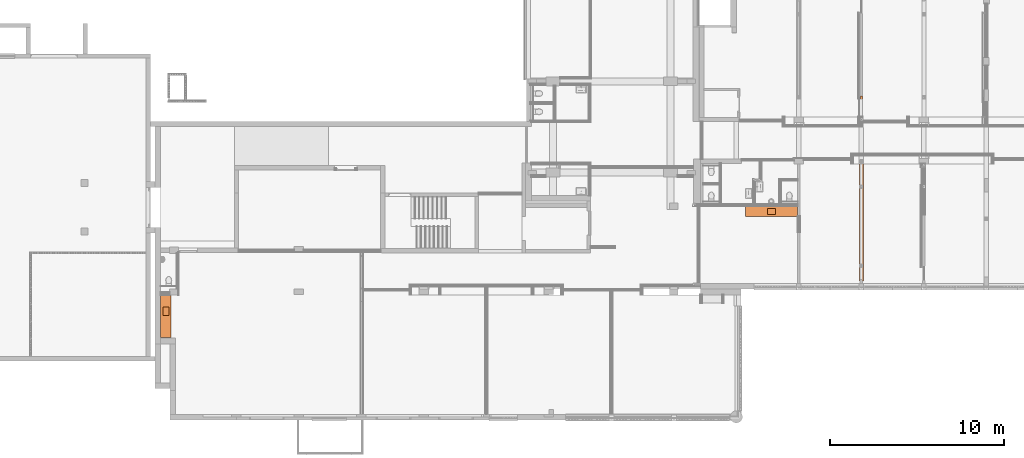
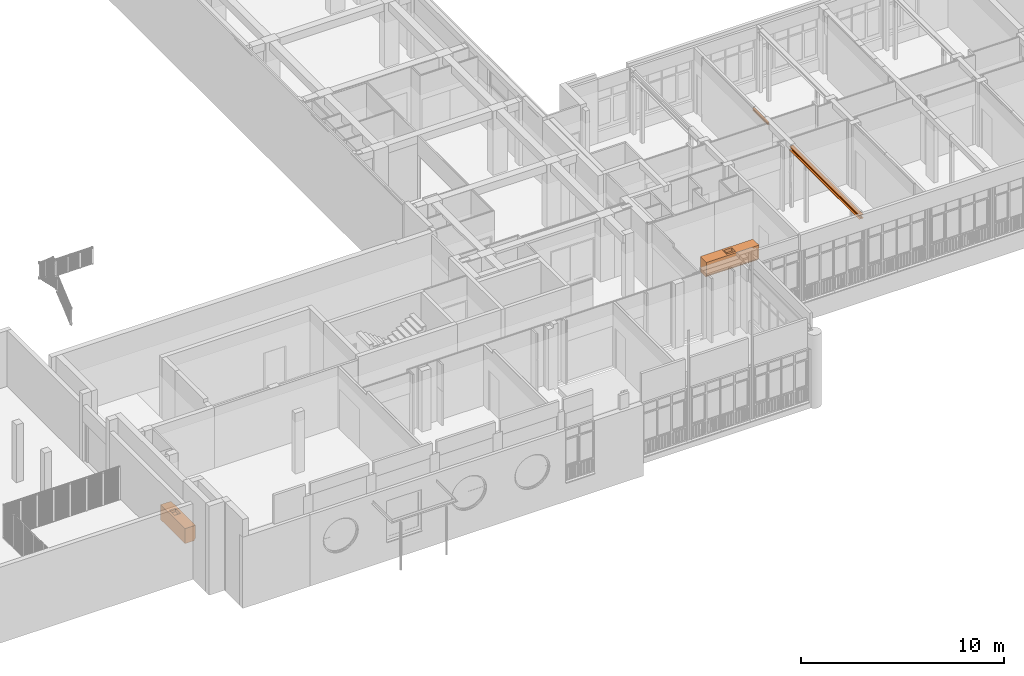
# One storey, part 133 of 135: 4 proxies.
"""IFC2X3 building model written with IfcOpenShell, lengths in millimetres."""

from ifc_helpers import new_model, entity, si_unit, converted_unit, derived_unit, money_unit, direction, frame, origin_with_axes, place, context, subcontext, project, spatial, open_shell, faceted_brep, surface_model, material, type_object, element, save


model = new_model("IFC2X3")

# Units and contexts
model_context = context("Model", 3, precision=0.01, world=origin_with_axes(), true_north=direction((0.0, 1.0)))
body_context = subcontext(model_context, "Body", "Model", "MODEL_VIEW")
ifc_project = project(units=[si_unit("LENGTHUNIT", "METRE", prefix="MILLI"), si_unit("AREAUNIT", "SQUARE_METRE"), si_unit("VOLUMEUNIT", "CUBIC_METRE"), converted_unit("PLANEANGLEUNIT", "DEGREE", entity("IfcPlaneAngleMeasure", 0.0174532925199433), si_unit("PLANEANGLEUNIT", "RADIAN"), dimensions=[0, 0, 0, 0, 0, 0, 0]), money_unit("EUR"), converted_unit("TIMEUNIT", "Year", entity("IfcTimeMeasure", 31557600.0), si_unit("TIMEUNIT", "SECOND"), dimensions=[0, 0, 1, 0, 0, 0, 0]), si_unit("MASSUNIT", "GRAM", prefix="KILO"), si_unit("THERMODYNAMICTEMPERATUREUNIT", "DEGREE_CELSIUS"), si_unit("LUMINOUSINTENSITYUNIT", "LUMEN"), si_unit("ENERGYUNIT", "JOULE", prefix="MEGA"), derived_unit("THERMALCONDUCTANCEUNIT", [(si_unit("POWERUNIT", "WATT"), 1), (si_unit("LENGTHUNIT", "METRE"), -1), (si_unit("THERMODYNAMICTEMPERATUREUNIT", "KELVIN"), -1)]), derived_unit("SPECIFICHEATCAPACITYUNIT", [(si_unit("ENERGYUNIT", "JOULE"), 1), (si_unit("MASSUNIT", "GRAM", prefix="KILO"), -1), (si_unit("THERMODYNAMICTEMPERATUREUNIT", "KELVIN"), -1)]), derived_unit("MASSDENSITYUNIT", [(si_unit("MASSUNIT", "GRAM", prefix="KILO"), 1), (si_unit("VOLUMEUNIT", "CUBIC_METRE"), -1)])], contexts=[model_context])

# Site, building, storey
site_placement = place(None, origin_with_axes())
site = spatial("IfcSite", under=ifc_project, at=site_placement, Name="Site", CompositionType="ELEMENT")
building_placement = place(site_placement, origin_with_axes())
building = spatial("IfcBuilding", under=site, at=building_placement, Name="Naam gebouw", CompositionType="ELEMENT")
storey_placement = place(building_placement, origin_with_axes())
storey = spatial("IfcBuildingStorey", under=building, at=storey_placement, Name="Begane grond N", CompositionType="ELEMENT", Elevation=0.0)

# Proxies
ifc_material = material(Name="Metaal - Staal AFW")
building_element_proxy_type_1 = type_object("IfcBuildingElementProxyType", Name="HEA balk 27", PredefinedType="NOTDEFINED")
proxy_1_placement = place(storey_placement, frame((39599.5533546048, 20271.11266581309, 3566.005990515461), z_axis=(0.0, 0.0, 1.0), x_axis=(0.0, -1.0, 0.0)))
element("IfcBuildingElementProxy", 1, at=proxy_1_placement, inside=storey, type_object=building_element_proxy_type_1, material=ifc_material, Name="_Boom-x", context=body_context, shape_type="Brep", body=[
    faceted_brep([(0.0, -60.0, 0.0), (-1499.999999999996, -60.00000000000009, 0.0), (-1499.999999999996, 59.99999999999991, 0.0), (0.0, 60.0, 0.0), (0.0, -60.0, 8.0), (-1499.999999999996, -60.00000000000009, 8.000000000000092), (-1499.999999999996, -14.50000000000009, 8.000000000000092), (-1499.999999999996, -8.500000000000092, 9.607695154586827), (-1499.999999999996, -4.107695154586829, 14.00000000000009), (-1499.999999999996, -2.500000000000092, 20.00000000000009), (-1499.999999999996, -2.500000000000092, 94.00000000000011), (-1499.999999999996, -4.107695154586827, 100.0000000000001), (-1499.999999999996, -8.500000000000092, 104.3923048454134), (-1499.999999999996, -14.50000000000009, 106.0000000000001), (-1499.999999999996, -60.00000000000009, 106.0000000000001), (-1499.999999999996, -60.00000000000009, 114.0000000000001), (-1499.999999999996, 59.99999999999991, 114.0000000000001), (-1499.999999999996, 59.99999999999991, 106.0000000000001), (-1499.999999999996, 14.49999999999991, 106.0000000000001), (-1499.999999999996, 8.49999999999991, 104.3923048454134), (-1499.999999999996, 4.107695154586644, 100.0000000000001), (-1499.999999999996, 2.499999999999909, 94.00000000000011), (-1499.999999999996, 2.499999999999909, 20.00000000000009), (-1499.999999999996, 4.107695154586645, 14.00000000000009), (-1499.999999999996, 8.49999999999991, 9.607695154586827), (-1499.999999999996, 14.49999999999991, 8.000000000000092), (-1499.999999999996, 59.99999999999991, 8.000000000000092), (0.0, 60.0, 8.0), (0.0, 14.5, 8.0), (0.0, 8.5, 9.607695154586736), (0.0, 4.107695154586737, 14.0), (0.0, 2.5, 20.0), (0.0, 2.5, 94.00000000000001), (0.0, 4.107695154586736, 100.0), (0.0, 8.5, 104.3923048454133), (0.0, 14.5, 106.0), (0.0, 60.0, 106.0), (0.0, 60.0, 114.0), (0.0, -60.0, 114.0), (0.0, -60.0, 106.0), (0.0, -14.5, 106.0), (0.0, -8.5, 104.3923048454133), (0.0, -4.107695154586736, 100.0), (0.0, -2.5, 94.00000000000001), (0.0, -2.5, 20.0), (0.0, -4.107695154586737, 14.0), (0.0, -8.5, 9.607695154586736), (0.0, -14.5, 8.0)], [[[0, 1, 2, 3]], [[4, 5, 1, 0]], [[1, 5, 6, 7, 8, 9, 10, 11, 12, 13, 14, 15, 16, 17, 18, 19, 20, 21, 22, 23, 24, 25, 26, 2]], [[3, 2, 26, 27]], [[0, 3, 27, 28, 29, 30, 31, 32, 33, 34, 35, 36, 37, 38, 39, 40, 41, 42, 43, 44, 45, 46, 47, 4]], [[47, 6, 5, 4]], [[46, 7, 6, 47]], [[45, 8, 7, 46]], [[44, 9, 8, 45]], [[43, 10, 9, 44]], [[42, 11, 10, 43]], [[41, 12, 11, 42]], [[40, 13, 12, 41]], [[39, 14, 13, 40]], [[38, 15, 14, 39]], [[37, 16, 15, 38]], [[36, 17, 16, 37]], [[35, 18, 17, 36]], [[34, 19, 18, 35]], [[33, 20, 19, 34]], [[32, 21, 20, 33]], [[31, 22, 21, 32]], [[30, 23, 22, 31]], [[29, 24, 23, 30]], [[28, 25, 24, 29]], [[27, 26, 25, 28]]]),
])
building_element_proxy_type_2 = type_object("IfcBuildingElementProxyType", Name="HEB balk 27", PredefinedType="NOTDEFINED")
proxy_2_placement = place(storey_placement, frame((39599.99999999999, 11130.91242510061, 3439.999999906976), z_axis=(0.0, 0.0, 1.0), x_axis=(0.0, -1.0, 0.0)))
element("IfcBuildingElementProxy", 2, at=proxy_2_placement, inside=storey, type_object=building_element_proxy_type_2, material=ifc_material, Name="_Boom-x", context=body_context, shape_type="Brep", body=[
    faceted_brep([(0.0, -120.0, 0.0), (-6895.0, -120.0000000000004, 0.0), (-6895.0, 119.9999999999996, 0.0), (0.0, 120.0, 0.0), (0.0, -120.0, 17.0), (-6895.0, -120.0000000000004, 17.00000000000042), (-6895.0, -26.00000000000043, 17.00000000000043), (-6895.0, -15.50000000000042, 19.81346652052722), (-6895.0, -7.813466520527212, 27.50000000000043), (-6895.0, -5.000000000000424, 38.00000000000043), (-6895.0, -5.000000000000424, 202.0000000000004), (-6895.0, -7.813466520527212, 212.5000000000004), (-6895.0, -15.50000000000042, 220.1865334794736), (-6895.0, -26.00000000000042, 223.0000000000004), (-6895.0, -120.0000000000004, 223.0000000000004), (-6895.0, -120.0000000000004, 240.0000000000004), (-6895.0, 119.9999999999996, 240.0000000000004), (-6895.0, 119.9999999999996, 223.0000000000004), (-6895.0, 25.99999999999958, 223.0000000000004), (-6895.0, 15.49999999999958, 220.1865334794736), (-6895.0, 7.813466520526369, 212.5000000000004), (-6895.0, 4.999999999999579, 202.0000000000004), (-6895.0, 4.999999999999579, 38.00000000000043), (-6895.0, 7.813466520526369, 27.50000000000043), (-6895.0, 15.49999999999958, 19.81346652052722), (-6895.0, 25.99999999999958, 17.00000000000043), (-6895.0, 119.9999999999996, 17.00000000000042), (0.0, 120.0, 17.0), (0.0, 26.0, 17.0), (0.0, 15.5, 19.8134665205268), (0.0, 7.81346652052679, 27.5), (0.0, 5.000000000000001, 38.00000000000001), (0.0, 5.000000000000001, 202.0), (0.0, 7.81346652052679, 212.5), (0.0, 15.5, 220.1865334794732), (0.0, 26.0, 223.0), (0.0, 120.0, 223.0), (0.0, 120.0, 240.0), (0.0, -120.0, 240.0), (0.0, -120.0, 223.0), (0.0, -26.0, 223.0), (0.0, -15.5, 220.1865334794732), (0.0, -7.81346652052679, 212.5), (0.0, -5.000000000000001, 202.0), (0.0, -5.000000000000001, 38.00000000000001), (0.0, -7.81346652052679, 27.5), (0.0, -15.5, 19.8134665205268), (0.0, -26.0, 17.0)], [[[0, 1, 2, 3]], [[4, 5, 1, 0]], [[1, 5, 6, 7, 8, 9, 10, 11, 12, 13, 14, 15, 16, 17, 18, 19, 20, 21, 22, 23, 24, 25, 26, 2]], [[3, 2, 26, 27]], [[0, 3, 27, 28, 29, 30, 31, 32, 33, 34, 35, 36, 37, 38, 39, 40, 41, 42, 43, 44, 45, 46, 47, 4]], [[47, 6, 5, 4]], [[46, 7, 6, 47]], [[45, 8, 7, 46]], [[44, 9, 8, 45]], [[43, 10, 9, 44]], [[42, 11, 10, 43]], [[41, 12, 11, 42]], [[40, 13, 12, 41]], [[39, 14, 13, 40]], [[38, 15, 14, 39]], [[37, 16, 15, 38]], [[36, 17, 16, 37]], [[35, 18, 17, 36]], [[34, 19, 18, 35]], [[33, 20, 19, 34]], [[32, 21, 20, 33]], [[31, 22, 21, 32]], [[30, 23, 22, 31]], [[29, 24, 23, 30]], [[28, 25, 24, 29]], [[27, 26, 25, 28]]]),
])
building_element_proxy_type_3 = type_object("IfcBuildingElementProxyType", Name="Keukenopstelling 27", PredefinedType="NOTDEFINED")
proxy_3_placement = place(storey_placement, frame((35325.0, 15440.91242510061, 0.0), z_axis=(0.0, 0.0, 1.0), x_axis=(-1.0, 0.0, 0.0)))
element("IfcBuildingElementProxy", 3, at=proxy_3_placement, inside=storey, type_object=building_element_proxy_type_3, Name="_Object-x", context=body_context, shape_type="SurfaceModel", body=[
    faceted_brep([(-600.0000000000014, 0.0, 0.0), (2400.000000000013, 0.0, 0.0), (2400.000000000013, 0.0, 100.0), (-600.0000000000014, 0.0, 100.0), (-600.0000000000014, 549.9999999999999, 0.0), (2400.000000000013, 549.9999999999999, 0.0), (2400.000000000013, 549.9999999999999, 100.0), (-600.0000000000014, 549.9999999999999, 100.0)], [[[0, 1, 2, 3]], [[0, 4, 5, 1]], [[1, 5, 6, 2]], [[3, 2, 6, 7]], [[4, 0, 3, 7]], [[5, 4, 7, 6]]]),
    faceted_brep([(-600.0000000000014, 600.0, 850.0), (2400.000000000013, 600.0, 850.0), (2400.000000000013, 0.0, 850.0), (-600.0000000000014, 0.0, 850.0), (649.9999999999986, 55.00000000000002, 850.0), (1149.999999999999, 54.99999999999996, 850.0), (1149.999999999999, 504.9999999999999, 850.0), (649.9999999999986, 505.0, 850.0), (-600.0000000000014, 600.0, 900.0), (2400.000000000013, 600.0, 900.0), (2400.000000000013, 0.0, 900.0), (-600.0000000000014, 0.0, 900.0), (649.9999999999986, 55.00000000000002, 900.0), (1149.999999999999, 54.99999999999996, 900.0), (1149.999999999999, 504.9999999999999, 900.0), (649.9999999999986, 505.0, 900.0)], [[[0, 1, 2, 3], [4, 5, 6, 7]], [[0, 8, 9, 1]], [[1, 9, 10, 2]], [[2, 10, 11, 3]], [[3, 11, 8, 0]], [[12, 13, 5, 4]], [[13, 14, 6, 5]], [[14, 15, 7, 6]], [[15, 12, 4, 7]], [[10, 9, 8, 11], [12, 15, 14, 13]]]),
    faceted_brep([(-600.0000000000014, 600.0, 99.99999999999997), (2400.000000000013, 600.0, 99.99999999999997), (2400.000000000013, 0.0, 99.99999999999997), (-600.0000000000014, 0.0, 99.99999999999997), (649.9999999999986, 55.00000000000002, 99.99999999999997), (1149.999999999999, 54.99999999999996, 99.99999999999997), (1149.999999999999, 504.9999999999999, 99.99999999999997), (649.9999999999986, 505.0, 99.99999999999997), (-600.0000000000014, 600.0, 850.0), (2400.000000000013, 600.0, 850.0), (2400.000000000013, 0.0, 850.0), (-600.0000000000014, 0.0, 850.0), (649.9999999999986, 55.00000000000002, 850.0), (1149.999999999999, 54.99999999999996, 850.0), (1149.999999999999, 504.9999999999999, 850.0), (649.9999999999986, 505.0, 850.0)], [[[0, 1, 2, 3], [4, 5, 6, 7]], [[0, 8, 9, 1]], [[1, 9, 10, 2]], [[2, 10, 11, 3]], [[3, 11, 8, 0]], [[12, 13, 5, 4]], [[13, 14, 6, 5]], [[14, 15, 7, 6]], [[15, 12, 4, 7]], [[10, 9, 8, 11], [12, 15, 14, 13]]]),
    surface_model("IfcShellBasedSurfaceModel", [(1104.999999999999, 479.9999999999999, 705.0), (694.9999999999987, 480.0, 705.0), (694.9999999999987, 480.0, 899.9999999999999), (1104.999999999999, 479.9999999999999, 899.9999999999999), (1112.6536686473, 478.4775906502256, 705.0), (1119.14213562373, 474.1421356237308, 705.0), (1123.477590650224, 467.6536686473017, 705.0), (1124.999999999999, 459.9999999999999, 705.0), (1124.999999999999, 149.9999999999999, 705.0), (1123.477590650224, 142.3463313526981, 705.0), (1119.14213562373, 135.857864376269, 705.0), (1112.6536686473, 131.5224093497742, 705.0), (1104.999999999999, 129.9999999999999, 705.0), (694.9999999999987, 129.9999999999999, 705.0), (687.3463313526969, 131.5224093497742, 705.0), (680.8578643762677, 135.857864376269, 705.0), (676.5224093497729, 142.3463313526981, 705.0), (674.9999999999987, 150.0, 705.0), (674.9999999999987, 459.9999999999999, 705.0), (676.522409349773, 467.6536686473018, 705.0), (680.8578643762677, 474.1421356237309, 705.0), (687.346331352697, 478.4775906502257, 705.0), (687.346331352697, 478.4775906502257, 899.9999999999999), (1112.6536686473, 478.4775906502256, 899.9999999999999), (1119.14213562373, 474.1421356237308, 899.9999999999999), (1123.477590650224, 467.6536686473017, 899.9999999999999), (1124.999999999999, 459.9999999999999, 899.9999999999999), (1124.999999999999, 149.9999999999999, 899.9999999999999), (1123.477590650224, 142.3463313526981, 899.9999999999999), (1119.14213562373, 135.857864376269, 899.9999999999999), (1112.6536686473, 131.5224093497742, 899.9999999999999), (1104.999999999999, 129.9999999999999, 899.9999999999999), (694.9999999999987, 129.9999999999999, 899.9999999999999), (687.3463313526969, 131.5224093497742, 899.9999999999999), (680.8578643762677, 135.857864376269, 899.9999999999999), (676.5224093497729, 142.3463313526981, 899.9999999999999), (674.9999999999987, 150.0, 899.9999999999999), (674.9999999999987, 459.9999999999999, 899.9999999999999), (676.522409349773, 467.6536686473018, 899.9999999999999), (680.8578643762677, 474.1421356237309, 899.9999999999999)], [open_shell([[[0, 1, 2, 3]], [[0, 4, 5, 6, 7, 8, 9, 10, 11, 12, 13, 14, 15, 16, 17, 18, 19, 20, 21, 1]], [[1, 21, 22, 2]], [[4, 0, 3, 23]], [[5, 4, 23, 24]], [[6, 5, 24, 25]], [[7, 6, 25, 26]], [[8, 7, 26, 27]], [[9, 8, 27, 28]], [[10, 9, 28, 29]], [[11, 10, 29, 30]], [[12, 11, 30, 31]], [[13, 12, 31, 32]], [[14, 13, 32, 33]], [[15, 14, 33, 34]], [[16, 15, 34, 35]], [[17, 16, 35, 36]], [[18, 17, 36, 37]], [[19, 18, 37, 38]], [[20, 19, 38, 39]], [[21, 20, 39, 22]]])]),
    faceted_brep([(1154.999999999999, 529.9999999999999, 899.9999999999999), (644.9999999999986, 530.0, 899.9999999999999), (644.9999999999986, 530.0, 904.9999999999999), (1154.999999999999, 529.9999999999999, 904.9999999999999), (1162.6536686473, 528.4775906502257, 899.9999999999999), (1169.14213562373, 524.142135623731, 899.9999999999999), (1173.477590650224, 517.6536686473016, 899.9999999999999), (1174.999999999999, 509.9999999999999, 899.9999999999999), (1174.999999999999, 49.99999999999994, 899.9999999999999), (1173.477590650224, 42.34633135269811, 899.9999999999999), (1169.14213562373, 35.85786437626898, 899.9999999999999), (1162.6536686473, 31.52240934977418, 899.9999999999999), (1154.999999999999, 29.99999999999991, 899.9999999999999), (644.9999999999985, 29.99999999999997, 899.9999999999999), (637.3463313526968, 31.52240934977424, 899.9999999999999), (630.8578643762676, 35.85786437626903, 899.9999999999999), (626.5224093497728, 42.34633135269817, 899.9999999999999), (624.9999999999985, 49.99999999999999, 899.9999999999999), (624.9999999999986, 510.0, 899.9999999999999), (626.5224093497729, 517.6536686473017, 899.9999999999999), (630.8578643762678, 524.142135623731, 899.9999999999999), (637.3463313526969, 528.4775906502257, 899.9999999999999), (1104.999999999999, 479.9999999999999, 899.9999999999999), (694.9999999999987, 480.0, 899.9999999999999), (687.346331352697, 478.4775906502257, 899.9999999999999), (680.8578643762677, 474.1421356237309, 899.9999999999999), (676.522409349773, 467.6536686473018, 899.9999999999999), (674.9999999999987, 459.9999999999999, 899.9999999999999), (674.9999999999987, 150.0, 899.9999999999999), (676.5224093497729, 142.3463313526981, 899.9999999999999), (680.8578643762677, 135.857864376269, 899.9999999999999), (687.3463313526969, 131.5224093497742, 899.9999999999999), (694.9999999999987, 129.9999999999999, 899.9999999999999), (1104.999999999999, 129.9999999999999, 899.9999999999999), (1112.6536686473, 131.5224093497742, 899.9999999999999), (1119.14213562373, 135.857864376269, 899.9999999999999), (1123.477590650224, 142.3463313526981, 899.9999999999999), (1124.999999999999, 149.9999999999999, 899.9999999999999), (1124.999999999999, 459.9999999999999, 899.9999999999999), (1123.477590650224, 467.6536686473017, 899.9999999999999), (1119.14213562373, 474.1421356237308, 899.9999999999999), (1112.6536686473, 478.4775906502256, 899.9999999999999), (637.3463313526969, 528.4775906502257, 904.9999999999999), (630.8578643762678, 524.142135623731, 904.9999999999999), (626.5224093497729, 517.6536686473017, 904.9999999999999), (624.9999999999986, 510.0, 904.9999999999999), (624.9999999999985, 49.99999999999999, 904.9999999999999), (626.5224093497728, 42.34633135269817, 904.9999999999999), (630.8578643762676, 35.85786437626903, 904.9999999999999), (637.3463313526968, 31.52240934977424, 904.9999999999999), (644.9999999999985, 29.99999999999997, 904.9999999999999), (1154.999999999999, 29.99999999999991, 904.9999999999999), (1162.6536686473, 31.52240934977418, 904.9999999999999), (1169.14213562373, 35.85786437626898, 904.9999999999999), (1173.477590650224, 42.34633135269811, 904.9999999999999), (1174.999999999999, 49.99999999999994, 904.9999999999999), (1174.999999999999, 509.9999999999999, 904.9999999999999), (1173.477590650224, 517.6536686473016, 904.9999999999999), (1169.14213562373, 524.142135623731, 904.9999999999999), (1162.6536686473, 528.4775906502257, 904.9999999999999), (1104.999999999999, 479.9999999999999, 904.9999999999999), (1112.6536686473, 478.4775906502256, 904.9999999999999), (1119.14213562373, 474.1421356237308, 904.9999999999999), (1123.477590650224, 467.6536686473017, 904.9999999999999), (1124.999999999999, 459.9999999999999, 904.9999999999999), (1124.999999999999, 149.9999999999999, 904.9999999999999), (1123.477590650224, 142.3463313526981, 904.9999999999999), (1119.14213562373, 135.857864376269, 904.9999999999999), (1112.6536686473, 131.5224093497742, 904.9999999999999), (1104.999999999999, 129.9999999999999, 904.9999999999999), (694.9999999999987, 129.9999999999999, 904.9999999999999), (687.3463313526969, 131.5224093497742, 904.9999999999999), (680.8578643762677, 135.857864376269, 904.9999999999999), (676.5224093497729, 142.3463313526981, 904.9999999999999), (674.9999999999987, 150.0, 904.9999999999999), (674.9999999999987, 459.9999999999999, 904.9999999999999), (676.522409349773, 467.6536686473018, 904.9999999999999), (680.8578643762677, 474.1421356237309, 904.9999999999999), (687.346331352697, 478.4775906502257, 904.9999999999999), (694.9999999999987, 480.0, 904.9999999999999)], [[[0, 1, 2, 3]], [[0, 4, 5, 6, 7, 8, 9, 10, 11, 12, 13, 14, 15, 16, 17, 18, 19, 20, 21, 1], [22, 23, 24, 25, 26, 27, 28, 29, 30, 31, 32, 33, 34, 35, 36, 37, 38, 39, 40, 41]], [[1, 21, 42, 2]], [[3, 2, 42, 43, 44, 45, 46, 47, 48, 49, 50, 51, 52, 53, 54, 55, 56, 57, 58, 59], [60, 61, 62, 63, 64, 65, 66, 67, 68, 69, 70, 71, 72, 73, 74, 75, 76, 77, 78, 79]], [[4, 0, 3, 59]], [[5, 4, 59, 58]], [[6, 5, 58, 57]], [[7, 6, 57, 56]], [[8, 7, 56, 55]], [[9, 8, 55, 54]], [[10, 9, 54, 53]], [[11, 10, 53, 52]], [[12, 11, 52, 51]], [[13, 12, 51, 50]], [[14, 13, 50, 49]], [[15, 14, 49, 48]], [[16, 15, 48, 47]], [[17, 16, 47, 46]], [[18, 17, 46, 45]], [[19, 18, 45, 44]], [[20, 19, 44, 43]], [[21, 20, 43, 42]], [[23, 22, 60, 79]], [[24, 23, 79, 78]], [[25, 24, 78, 77]], [[26, 25, 77, 76]], [[27, 26, 76, 75]], [[28, 27, 75, 74]], [[29, 28, 74, 73]], [[30, 29, 73, 72]], [[31, 30, 72, 71]], [[32, 31, 71, 70]], [[33, 32, 70, 69]], [[34, 33, 69, 68]], [[35, 34, 68, 67]], [[36, 35, 67, 66]], [[37, 36, 66, 65]], [[38, 37, 65, 64]], [[39, 38, 64, 63]], [[40, 39, 63, 62]], [[41, 40, 62, 61]], [[22, 41, 61, 60]]]),
])
proxy_4_placement = place(storey_placement, frame((-770.0388143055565, 8427.112425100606, 0.0), z_axis=(0.0, 0.0, 1.0), x_axis=(0.0, -1.0, 0.0)))
element("IfcBuildingElementProxy", 4, at=proxy_4_placement, inside=storey, type_object=building_element_proxy_type_3, Name="_Boom-x", context=body_context, shape_type="SurfaceModel", body=[
    faceted_brep([(549.999999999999, 0.0, 0.0), (549.999999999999, 0.0, 100.0), (-1850.0, 0.0, 100.0), (-1850.0, 0.0, 0.0), (549.9999999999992, 549.9999999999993, 0.0), (549.9999999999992, 549.9999999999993, 100.0), (-1849.999999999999, 549.9999999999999, 100.0), (-1849.999999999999, 549.9999999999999, 0.0)], [[[0, 1, 2, 3]], [[4, 5, 1, 0]], [[1, 5, 6, 2]], [[3, 2, 6, 7]], [[0, 3, 7, 4]], [[7, 6, 5, 4]]]),
    faceted_brep([(549.9999999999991, 599.9999999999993, 850.0), (549.9999999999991, 0.0, 850.0), (-1850.0, 0.0, 850.0), (-1850.0, 600.0, 850.0), (-675.0000000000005, 54.99999999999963, 850.0), (-675.0000000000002, 504.9999999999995, 850.0), (-1225.0, 504.9999999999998, 850.0), (-1225.0, 54.9999999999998, 850.0), (549.9999999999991, 599.9999999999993, 900.0), (549.9999999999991, 0.0, 900.0), (-1850.0, 0.0, 900.0), (-1850.0, 600.0, 900.0), (-675.0000000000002, 504.9999999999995, 900.0), (-675.0000000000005, 54.99999999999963, 900.0), (-1225.0, 504.9999999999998, 900.0), (-1225.0, 54.9999999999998, 900.0)], [[[0, 1, 2, 3], [4, 5, 6, 7]], [[1, 0, 8, 9]], [[2, 1, 9, 10]], [[3, 2, 10, 11]], [[0, 3, 11, 8]], [[12, 5, 4, 13]], [[14, 6, 5, 12]], [[15, 7, 6, 14]], [[13, 4, 7, 15]], [[10, 9, 8, 11], [13, 15, 14, 12]]]),
    faceted_brep([(549.9999999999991, 599.9999999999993, 99.99999999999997), (549.9999999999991, 0.0, 99.99999999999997), (-1850.0, 0.0, 99.99999999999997), (-1850.0, 600.0, 99.99999999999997), (-675.0000000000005, 54.99999999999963, 99.99999999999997), (-675.0000000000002, 504.9999999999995, 99.99999999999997), (-1225.0, 504.9999999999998, 99.99999999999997), (-1225.0, 54.9999999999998, 99.99999999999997), (549.9999999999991, 599.9999999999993, 850.0), (549.9999999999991, 0.0, 850.0), (-1850.0, 0.0, 850.0), (-1850.0, 600.0, 850.0), (-675.0000000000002, 504.9999999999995, 850.0), (-675.0000000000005, 54.99999999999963, 850.0), (-1225.0, 504.9999999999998, 850.0), (-1225.0, 54.9999999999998, 850.0)], [[[0, 1, 2, 3], [4, 5, 6, 7]], [[1, 0, 8, 9]], [[2, 1, 9, 10]], [[3, 2, 10, 11]], [[0, 3, 11, 8]], [[12, 5, 4, 13]], [[14, 6, 5, 12]], [[15, 7, 6, 14]], [[13, 4, 7, 15]], [[10, 9, 8, 11], [13, 15, 14, 12]]]),
    surface_model("IfcShellBasedSurfaceModel", [(-1180.0, 479.9999999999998, 705.0), (-1180.0, 479.9999999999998, 899.9999999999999), (-720.0000000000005, 479.9999999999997, 899.9999999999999), (-720.0000000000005, 479.9999999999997, 705.0), (-1187.653668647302, 478.4775906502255, 705.0), (-1187.653668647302, 478.4775906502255, 899.9999999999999), (-712.3463313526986, 478.4775906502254, 899.9999999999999), (-712.3463313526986, 478.4775906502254, 705.0), (-705.8578643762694, 474.1421356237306, 705.0), (-701.5224093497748, 467.6536686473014, 705.0), (-700.0000000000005, 459.9999999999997, 705.0), (-700.0000000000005, 149.9999999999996, 705.0), (-701.5224093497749, 142.3463313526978, 705.0), (-705.8578643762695, 135.8578643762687, 705.0), (-712.3463313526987, 131.5224093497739, 705.0), (-720.0000000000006, 129.9999999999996, 705.0), (-1180.0, 129.9999999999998, 705.0), (-1187.653668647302, 131.5224093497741, 705.0), (-1194.142135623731, 135.8578643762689, 705.0), (-1198.477590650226, 142.346331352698, 705.0), (-1200.0, 149.9999999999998, 705.0), (-1200.0, 459.9999999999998, 705.0), (-1198.477590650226, 467.6536686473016, 705.0), (-1194.142135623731, 474.1421356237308, 705.0), (-1194.142135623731, 474.1421356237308, 899.9999999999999), (-705.8578643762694, 474.1421356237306, 899.9999999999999), (-701.5224093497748, 467.6536686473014, 899.9999999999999), (-700.0000000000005, 459.9999999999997, 899.9999999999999), (-700.0000000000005, 149.9999999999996, 899.9999999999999), (-701.5224093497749, 142.3463313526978, 899.9999999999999), (-705.8578643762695, 135.8578643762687, 899.9999999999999), (-712.3463313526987, 131.5224093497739, 899.9999999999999), (-720.0000000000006, 129.9999999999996, 899.9999999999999), (-1180.0, 129.9999999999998, 899.9999999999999), (-1187.653668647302, 131.5224093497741, 899.9999999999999), (-1194.142135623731, 135.8578643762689, 899.9999999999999), (-1198.477590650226, 142.346331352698, 899.9999999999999), (-1200.0, 149.9999999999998, 899.9999999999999), (-1200.0, 459.9999999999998, 899.9999999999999), (-1198.477590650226, 467.6536686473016, 899.9999999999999)], [open_shell([[[0, 1, 2, 3]], [[4, 5, 1, 0]], [[3, 2, 6, 7]], [[0, 3, 7, 8, 9, 10, 11, 12, 13, 14, 15, 16, 17, 18, 19, 20, 21, 22, 23, 4]], [[23, 24, 5, 4]], [[7, 6, 25, 8]], [[8, 25, 26, 9]], [[9, 26, 27, 10]], [[10, 27, 28, 11]], [[11, 28, 29, 12]], [[12, 29, 30, 13]], [[13, 30, 31, 14]], [[14, 31, 32, 15]], [[15, 32, 33, 16]], [[16, 33, 34, 17]], [[17, 34, 35, 18]], [[18, 35, 36, 19]], [[19, 36, 37, 20]], [[20, 37, 38, 21]], [[21, 38, 39, 22]], [[22, 39, 24, 23]]])]),
    faceted_brep([(-1230.0, 529.9999999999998, 899.9999999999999), (-1230.0, 529.9999999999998, 904.9999999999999), (-670.0000000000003, 529.9999999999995, 904.9999999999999), (-670.0000000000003, 529.9999999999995, 899.9999999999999), (-1237.653668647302, 528.4775906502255, 899.9999999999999), (-1237.653668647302, 528.4775906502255, 904.9999999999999), (-1244.142135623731, 524.1421356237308, 904.9999999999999), (-1248.477590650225, 517.6536686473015, 904.9999999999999), (-1250.0, 509.9999999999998, 904.9999999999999), (-1250.0, 49.99999999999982, 904.9999999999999), (-1248.477590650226, 42.34633135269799, 904.9999999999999), (-1244.142135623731, 35.85786437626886, 904.9999999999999), (-1237.653668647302, 31.52240934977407, 904.9999999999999), (-1230.0, 29.9999999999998, 904.9999999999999), (-670.0000000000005, 29.99999999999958, 904.9999999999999), (-662.3463313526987, 31.52240934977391, 904.9999999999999), (-655.8578643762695, 35.8578643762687, 904.9999999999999), (-651.5224093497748, 42.34633135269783, 904.9999999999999), (-650.0000000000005, 49.99999999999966, 904.9999999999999), (-650.0000000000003, 509.9999999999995, 904.9999999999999), (-651.5224093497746, 517.6536686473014, 904.9999999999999), (-655.8578643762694, 524.1421356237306, 904.9999999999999), (-662.3463313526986, 528.4775906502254, 904.9999999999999), (-1180.0, 479.9999999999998, 904.9999999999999), (-720.0000000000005, 479.9999999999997, 904.9999999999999), (-712.3463313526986, 478.4775906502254, 904.9999999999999), (-705.8578643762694, 474.1421356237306, 904.9999999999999), (-701.5224093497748, 467.6536686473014, 904.9999999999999), (-700.0000000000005, 459.9999999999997, 904.9999999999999), (-700.0000000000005, 149.9999999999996, 904.9999999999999), (-701.5224093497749, 142.3463313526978, 904.9999999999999), (-705.8578643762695, 135.8578643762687, 904.9999999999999), (-712.3463313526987, 131.5224093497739, 904.9999999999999), (-720.0000000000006, 129.9999999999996, 904.9999999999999), (-1180.0, 129.9999999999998, 904.9999999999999), (-1187.653668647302, 131.5224093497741, 904.9999999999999), (-1194.142135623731, 135.8578643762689, 904.9999999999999), (-1198.477590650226, 142.346331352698, 904.9999999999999), (-1200.0, 149.9999999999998, 904.9999999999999), (-1200.0, 459.9999999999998, 904.9999999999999), (-1198.477590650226, 467.6536686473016, 904.9999999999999), (-1194.142135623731, 474.1421356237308, 904.9999999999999), (-1187.653668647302, 478.4775906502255, 904.9999999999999), (-662.3463313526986, 528.4775906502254, 899.9999999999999), (-655.8578643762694, 524.1421356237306, 899.9999999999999), (-651.5224093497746, 517.6536686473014, 899.9999999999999), (-650.0000000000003, 509.9999999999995, 899.9999999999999), (-650.0000000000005, 49.99999999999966, 899.9999999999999), (-651.5224093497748, 42.34633135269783, 899.9999999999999), (-655.8578643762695, 35.8578643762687, 899.9999999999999), (-662.3463313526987, 31.52240934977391, 899.9999999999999), (-670.0000000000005, 29.99999999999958, 899.9999999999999), (-1230.0, 29.9999999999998, 899.9999999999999), (-1237.653668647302, 31.52240934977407, 899.9999999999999), (-1244.142135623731, 35.85786437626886, 899.9999999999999), (-1248.477590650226, 42.34633135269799, 899.9999999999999), (-1250.0, 49.99999999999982, 899.9999999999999), (-1250.0, 509.9999999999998, 899.9999999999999), (-1248.477590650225, 517.6536686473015, 899.9999999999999), (-1244.142135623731, 524.1421356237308, 899.9999999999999), (-1180.0, 479.9999999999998, 899.9999999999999), (-1187.653668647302, 478.4775906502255, 899.9999999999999), (-1194.142135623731, 474.1421356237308, 899.9999999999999), (-1198.477590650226, 467.6536686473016, 899.9999999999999), (-1200.0, 459.9999999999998, 899.9999999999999), (-1200.0, 149.9999999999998, 899.9999999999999), (-1198.477590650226, 142.346331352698, 899.9999999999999), (-1194.142135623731, 135.8578643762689, 899.9999999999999), (-1187.653668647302, 131.5224093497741, 899.9999999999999), (-1180.0, 129.9999999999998, 899.9999999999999), (-720.0000000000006, 129.9999999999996, 899.9999999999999), (-712.3463313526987, 131.5224093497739, 899.9999999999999), (-705.8578643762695, 135.8578643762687, 899.9999999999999), (-701.5224093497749, 142.3463313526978, 899.9999999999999), (-700.0000000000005, 149.9999999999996, 899.9999999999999), (-700.0000000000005, 459.9999999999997, 899.9999999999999), (-701.5224093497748, 467.6536686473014, 899.9999999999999), (-705.8578643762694, 474.1421356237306, 899.9999999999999), (-712.3463313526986, 478.4775906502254, 899.9999999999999), (-720.0000000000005, 479.9999999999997, 899.9999999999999)], [[[0, 1, 2, 3]], [[4, 5, 1, 0]], [[1, 5, 6, 7, 8, 9, 10, 11, 12, 13, 14, 15, 16, 17, 18, 19, 20, 21, 22, 2], [23, 24, 25, 26, 27, 28, 29, 30, 31, 32, 33, 34, 35, 36, 37, 38, 39, 40, 41, 42]], [[3, 2, 22, 43]], [[0, 3, 43, 44, 45, 46, 47, 48, 49, 50, 51, 52, 53, 54, 55, 56, 57, 58, 59, 4], [60, 61, 62, 63, 64, 65, 66, 67, 68, 69, 70, 71, 72, 73, 74, 75, 76, 77, 78, 79]], [[59, 6, 5, 4]], [[58, 7, 6, 59]], [[57, 8, 7, 58]], [[56, 9, 8, 57]], [[55, 10, 9, 56]], [[54, 11, 10, 55]], [[53, 12, 11, 54]], [[52, 13, 12, 53]], [[51, 14, 13, 52]], [[50, 15, 14, 51]], [[49, 16, 15, 50]], [[48, 17, 16, 49]], [[47, 18, 17, 48]], [[46, 19, 18, 47]], [[45, 20, 19, 46]], [[44, 21, 20, 45]], [[43, 22, 21, 44]], [[79, 24, 23, 60]], [[78, 25, 24, 79]], [[77, 26, 25, 78]], [[76, 27, 26, 77]], [[75, 28, 27, 76]], [[74, 29, 28, 75]], [[73, 30, 29, 74]], [[72, 31, 30, 73]], [[71, 32, 31, 72]], [[70, 33, 32, 71]], [[69, 34, 33, 70]], [[68, 35, 34, 69]], [[67, 36, 35, 68]], [[66, 37, 36, 67]], [[65, 38, 37, 66]], [[64, 39, 38, 65]], [[63, 40, 39, 64]], [[62, 41, 40, 63]], [[61, 42, 41, 62]], [[60, 23, 42, 61]]]),
])

save(model, "model.ifc")
